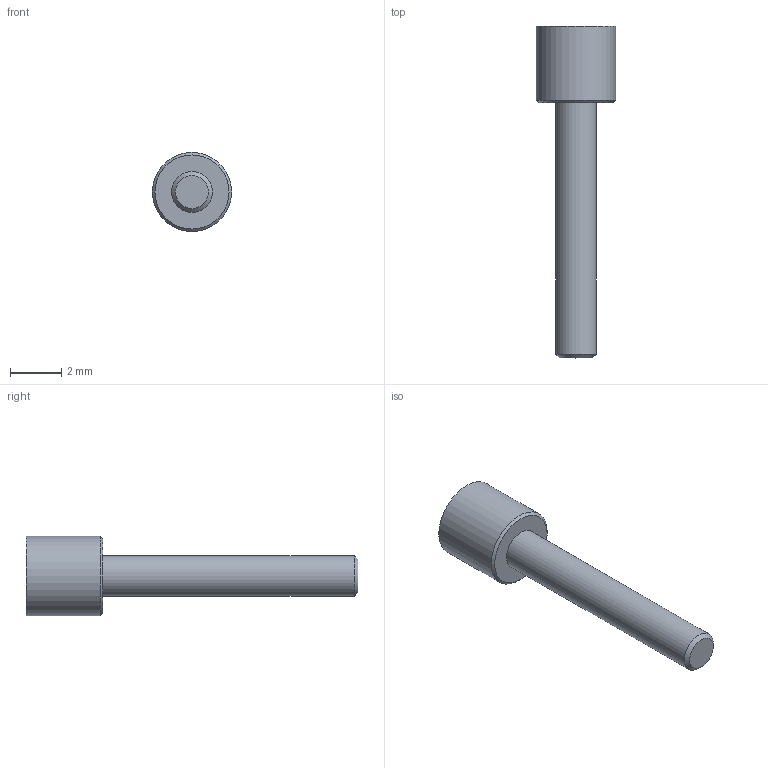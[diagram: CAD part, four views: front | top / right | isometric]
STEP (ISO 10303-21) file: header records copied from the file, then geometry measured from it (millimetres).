
FILE_DESCRIPTION (( 'STEP AP214' ), '1' );
FILE_NAME ('SE-5.STEP', '2018-10-09T18:06:44', ( '' ), ( '' ), 'SwSTEP 2.0', 'SolidWorks 2017', '' );
FILE_SCHEMA (( 'AUTOMOTIVE_DESIGN' ));
Length unit declared in the file: millimetre
Products named in the file (1): SE-5
Bounding box: 3.1 x 13 x 3.1 mm (x, y, z)
Volume: 42.3 mm3; surface area: 95.6 mm2
Topology: 1 solids, 1 shells, 20 faces, 48 edges, 32 vertices
Faces by surface type: plane 11, cylinder 7, cone 2
Full cylindrical faces by diameter (mm): 1.6 x1, 3.1 x1
Entity records: 574 total; most frequent: CARTESIAN_POINT 123, ORIENTED_EDGE 84, DIRECTION 80, EDGE_CURVE 42, VERTEX_POINT 30, AXIS2_PLACEMENT_3D 27, VECTOR 26, EDGE_LOOP 26
